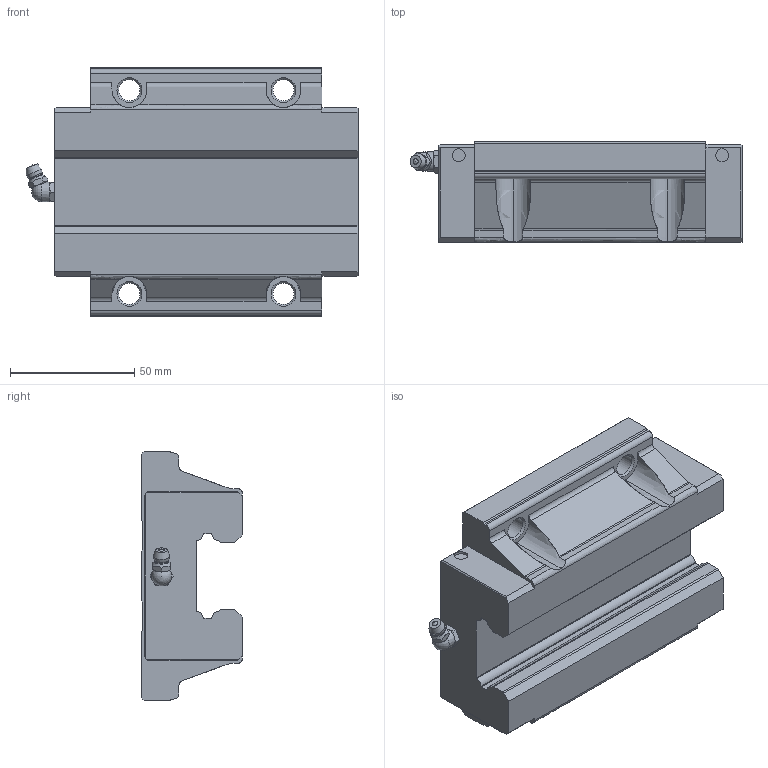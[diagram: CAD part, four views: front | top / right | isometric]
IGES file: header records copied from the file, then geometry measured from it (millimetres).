
Start section: Data from Parasolid IGES Translator 26.0.171, Copyright(c) 2006 Siemens PLM Software. All Rights Reserved.
Global section: file name: SHS35C1SS(GK) BLOCK(B-M6F1).igs; native system: By Siemens PLM Incorporated; preprocessor: XPlus GENERIC/IGES 26.0.171; author: Noname; organization: Noname; date: 20240514.033652; units: millimetre
Bounding box: 133.6 x 40.5 x 100 mm (x, y, z)
Surface area: 43937.8 mm2 (no closed solid volume)
Topology: 0 solids, 0 shells, 179 faces, 1008 edges, 989 vertices
Faces by surface type: extrusion 98, revolution 81
